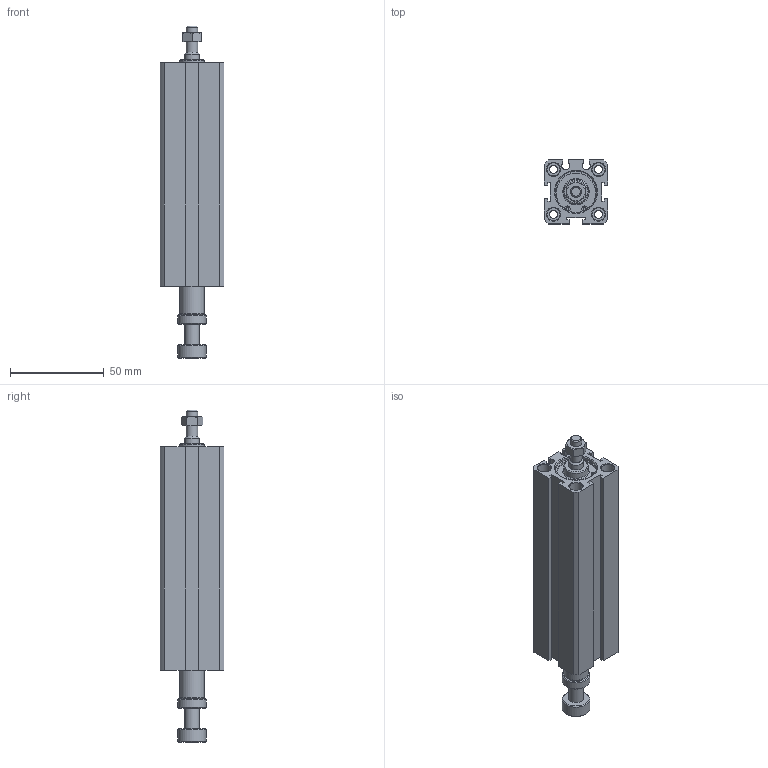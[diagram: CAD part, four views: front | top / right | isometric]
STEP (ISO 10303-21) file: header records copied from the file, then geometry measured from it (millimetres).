
FILE_DESCRIPTION((''),'2;1');
FILE_NAME('I:\3D電子目錄\氣缸\JDAR\JDAR-B\JDAR20-B\JDAR20x100-B.stp','2007-03-14T13:20:22',('662F206'),(''),'Autodesk Inventor 11','Autodesk Inventor 11','');
FILE_SCHEMA(('AUTOMOTIVE_DESIGN { 1 0 10303 214 1 1 1 1 }'));
Length unit declared in the file: millimetre
Products named in the file (3): JDAR20-B; R 形環 23
Assembly tree (3 placements, depth 2):
  JDAR20-B
    JDAR20-B
    R 形環 23  x2
Bounding box: 34 x 34 x 177.3 mm (x, y, z)
Volume: 119150.4 mm3; surface area: 35421.1 mm2
Topology: 3 solids, 3 shells, 152 faces, 341 edges, 221 vertices
Faces by surface type: plane 74, cylinder 50, cone 20, bspline 6, torus 2
Full cylindrical faces by diameter (mm): 1.5 x6, 4.3 x4, 6 x2, 7 x8, 8 x2, 13 x2, 15 x2, 22 x4, 23.2 x2
Entity records: 3749 total; most frequent: CARTESIAN_POINT 742, DIRECTION 628, ORIENTED_EDGE 498, AXIS2_PLACEMENT_3D 251, EDGE_CURVE 249, EDGE_LOOP 234, VERTEX_POINT 195, FACE_OUTER_BOUND 140
